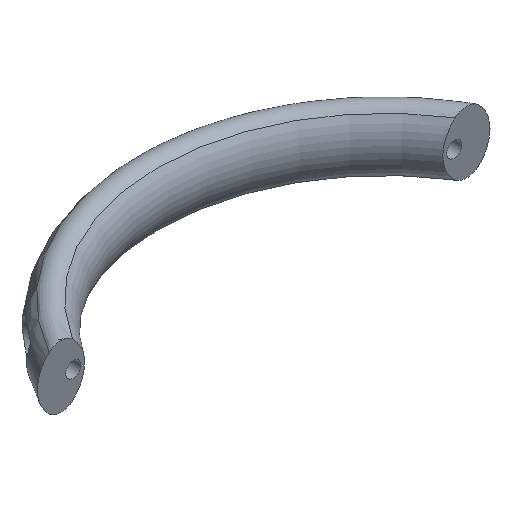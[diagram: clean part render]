
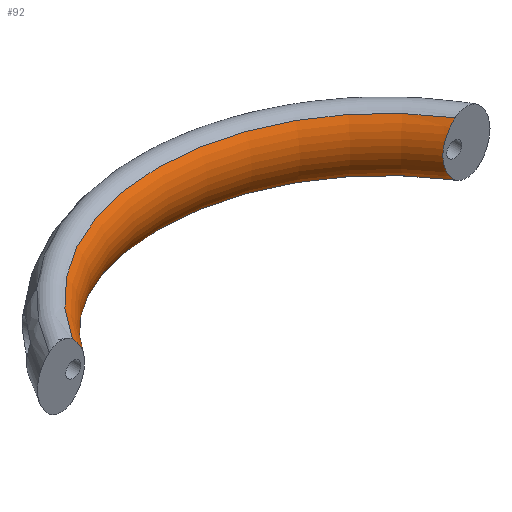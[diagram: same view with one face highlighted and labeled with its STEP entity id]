
A CAD part, isometric view. The second image highlights one B-rep face of the part: STEP entity #92.
In plain terms, the highlighted toroidal (fillet/blend) face has major radius 107.619 mm and minor radius 16.946 mm.
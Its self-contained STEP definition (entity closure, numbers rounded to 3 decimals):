
#92 = ADVANCED_FACE( '', ( #141 ), #142, .T. );
#141 = FACE_OUTER_BOUND( '', #193, .T. );
#142 = TOROIDAL_SURFACE( '', #194, 107.619, 16.946 );
#193 = EDGE_LOOP( '', ( #314, #315, #316, #317 ) );
#194 = AXIS2_PLACEMENT_3D( '', #318, #319, #320 );
#314 = ORIENTED_EDGE( '', *, *, #370, .F. );
#315 = ORIENTED_EDGE( '', *, *, #371, .T. );
#316 = ORIENTED_EDGE( '', *, *, #372, .T. );
#317 = ORIENTED_EDGE( '', *, *, #359, .T. );
#318 = CARTESIAN_POINT( '', ( 0., -50.673, 0. ) );
#319 = DIRECTION( '', ( 0., 0., -1. ) );
#320 = DIRECTION( '', ( -1., 0., 0. ) );
#359 = EDGE_CURVE( '', #418, #415, #419, .T. );
#370 = EDGE_CURVE( '', #433, #415, #435, .T. );
#371 = EDGE_CURVE( '', #433, #436, #437, .T. );
#372 = EDGE_CURVE( '', #436, #418, #438, .T. );
#415 = VERTEX_POINT( '', #585 );
#418 = VERTEX_POINT( '', #605 );
#419 = B_SPLINE_CURVE_WITH_KNOTS( '', 3, ( #606, #607, #608, #609, #610, #611, #612, #613, #614, #615, #616, #617, #618, #619, #620, #621, #622, #623, #624, #625, #626, #627, #628, #629, #630, #631, #632, #633 ), .UNSPECIFIED., .F., .F., ( 4, 2, 2, 2, 2, 2, 2, 2, 2, 2, 2, 2, 2, 4 ), ( 0.107, 0.109, 0.11, 0.113, 0.115, 0.116, 0.118, 0.12, 0.123, 0.124, 0.126, 0.128, 0.129, 0.132 ), .UNSPECIFIED. );
#433 = VERTEX_POINT( '', #734 );
#435 = CIRCLE( '', #755, 95.004 );
#436 = VERTEX_POINT( '', #756 );
#437 = B_SPLINE_CURVE_WITH_KNOTS( '', 3, ( #757, #758, #759, #760, #761, #762, #763, #764, #765, #766, #767, #768, #769, #770, #771, #772, #773, #774, #775, #776, #777, #778, #779, #780, #781, #782 ), .UNSPECIFIED., .F., .F., ( 4, 2, 2, 2, 2, 2, 2, 2, 2, 2, 2, 2, 4 ), ( 0.094, 0.098, 0.099, 0.101, 0.104, 0.106, 0.107, 0.11, 0.112, 0.113, 0.117, 0.118, 0.12 ), .UNSPECIFIED. );
#438 = CIRCLE( '', #783, 95.004 );
#585 = CARTESIAN_POINT( '', ( 80.362, 0., 11.315 ) );
#605 = CARTESIAN_POINT( '', ( 80.362, 0., -11.315 ) );
#606 = CARTESIAN_POINT( '', ( 80.362, 0., -11.315 ) );
#607 = CARTESIAN_POINT( '', ( 79.976, 0., -10.951 ) );
#608 = CARTESIAN_POINT( '', ( 79.603, 0., -10.569 ) );
#609 = CARTESIAN_POINT( '', ( 78.888, 0., -9.766 ) );
#610 = CARTESIAN_POINT( '', ( 78.551, 0., -9.35 ) );
#611 = CARTESIAN_POINT( '', ( 77.601, 0., -8.063 ) );
#612 = CARTESIAN_POINT( '', ( 77.051, 0., -7.151 ) );
#613 = CARTESIAN_POINT( '', ( 76.366, 0., -5.692 ) );
#614 = CARTESIAN_POINT( '', ( 76.164, 0., -5.196 ) );
#615 = CARTESIAN_POINT( '', ( 75.816, 0., -4.191 ) );
#616 = CARTESIAN_POINT( '', ( 75.669, 0., -3.681 ) );
#617 = CARTESIAN_POINT( '', ( 75.433, 0., -2.647 ) );
#618 = CARTESIAN_POINT( '', ( 75.343, 0., -2.122 ) );
#619 = CARTESIAN_POINT( '', ( 75.222, 0., -1.057 ) );
#620 = CARTESIAN_POINT( '', ( 75.192, 0., -0.52 ) );
#621 = CARTESIAN_POINT( '', ( 75.193, 0., 1.075 ) );
#622 = CARTESIAN_POINT( '', ( 75.313, 0., 2.128 ) );
#623 = CARTESIAN_POINT( '', ( 75.673, 0., 3.694 ) );
#624 = CARTESIAN_POINT( '', ( 75.822, 0., 4.211 ) );
#625 = CARTESIAN_POINT( '', ( 76.172, 0., 5.217 ) );
#626 = CARTESIAN_POINT( '', ( 76.374, 0., 5.709 ) );
#627 = CARTESIAN_POINT( '', ( 76.826, 0., 6.67 ) );
#628 = CARTESIAN_POINT( '', ( 77.077, 0., 7.14 ) );
#629 = CARTESIAN_POINT( '', ( 77.628, 0., 8.058 ) );
#630 = CARTESIAN_POINT( '', ( 77.927, 0., 8.505 ) );
#631 = CARTESIAN_POINT( '', ( 78.877, 0., 9.79 ) );
#632 = CARTESIAN_POINT( '', ( 79.585, 0., 10.582 ) );
#633 = CARTESIAN_POINT( '', ( 80.362, 0., 11.315 ) );
#734 = CARTESIAN_POINT( '', ( -80.362, 0., 11.315 ) );
#755 = AXIS2_PLACEMENT_3D( '', #860, #861, #862 );
#756 = CARTESIAN_POINT( '', ( -80.362, 0., -11.315 ) );
#757 = CARTESIAN_POINT( '', ( -80.362, 0., 11.315 ) );
#758 = CARTESIAN_POINT( '', ( -79.581, 0., 10.579 ) );
#759 = CARTESIAN_POINT( '', ( -78.872, 0., 9.785 ) );
#760 = CARTESIAN_POINT( '', ( -77.926, 0., 8.504 ) );
#761 = CARTESIAN_POINT( '', ( -77.63, 0., 8.062 ) );
#762 = CARTESIAN_POINT( '', ( -77.08, 0., 7.145 ) );
#763 = CARTESIAN_POINT( '', ( -76.825, 0., 6.668 ) );
#764 = CARTESIAN_POINT( '', ( -76.144, 0., 5.219 ) );
#765 = CARTESIAN_POINT( '', ( -75.795, 0., 4.22 ) );
#766 = CARTESIAN_POINT( '', ( -75.437, 0., 2.671 ) );
#767 = CARTESIAN_POINT( '', ( -75.346, 0., 2.146 ) );
#768 = CARTESIAN_POINT( '', ( -75.223, 0., 1.077 ) );
#769 = CARTESIAN_POINT( '', ( -75.192, 0., 0.54 ) );
#770 = CARTESIAN_POINT( '', ( -75.191, 0., -1.057 ) );
#771 = CARTESIAN_POINT( '', ( -75.311, 0., -2.112 ) );
#772 = CARTESIAN_POINT( '', ( -75.669, 0., -3.682 ) );
#773 = CARTESIAN_POINT( '', ( -75.819, 0., -4.201 ) );
#774 = CARTESIAN_POINT( '', ( -76.172, 0., -5.216 ) );
#775 = CARTESIAN_POINT( '', ( -76.376, 0., -5.716 ) );
#776 = CARTESIAN_POINT( '', ( -77.062, 0., -7.171 ) );
#777 = CARTESIAN_POINT( '', ( -77.611, 0., -8.078 ) );
#778 = CARTESIAN_POINT( '', ( -78.555, 0., -9.355 ) );
#779 = CARTESIAN_POINT( '', ( -78.889, 0., -9.767 ) );
#780 = CARTESIAN_POINT( '', ( -79.598, 0., -10.563 ) );
#781 = CARTESIAN_POINT( '', ( -79.974, 0., -10.949 ) );
#782 = CARTESIAN_POINT( '', ( -80.362, 0., -11.315 ) );
#783 = AXIS2_PLACEMENT_3D( '', #863, #864, #865 );
#860 = CARTESIAN_POINT( '', ( 0., -50.673, 11.315 ) );
#861 = DIRECTION( '', ( 0., 0., -1. ) );
#862 = DIRECTION( '', ( -1., 0., 0. ) );
#863 = CARTESIAN_POINT( '', ( 0., -50.673, -11.315 ) );
#864 = DIRECTION( '', ( 0., 0., -1. ) );
#865 = DIRECTION( '', ( -1., 0., 0. ) );
